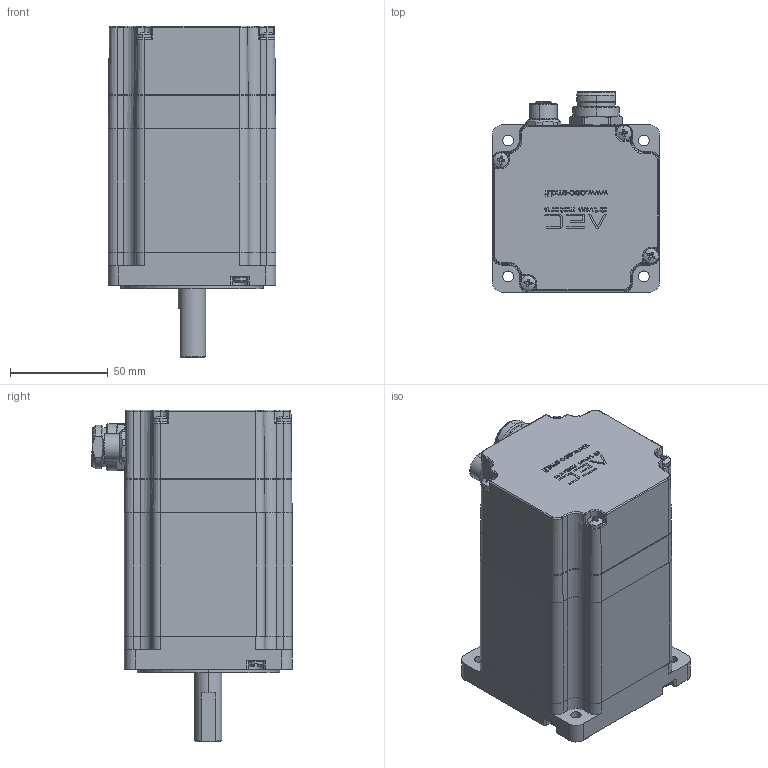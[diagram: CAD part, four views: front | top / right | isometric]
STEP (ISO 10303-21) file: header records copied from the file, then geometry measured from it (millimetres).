
FILE_DESCRIPTION (( 'STEP AP214' ), '1' );
FILE_NAME ('M86SH96-TO0512P24C.STEP', '2025-05-24T08:48:05', ( '' ), ( '' ), 'SwSTEP 2.0', 'SolidWorks 2019', '' );
FILE_SCHEMA (( 'AUTOMOTIVE_DESIGN' ));
Length unit declared in the file: millimetre
Products named in the file (1): M86SH96-TO0512P24C
Bounding box: 85.9 x 102.59 x 169.75 mm (x, y, z)
Surface area: 179102.3 mm2 (no closed solid volume)
Topology: 0 solids, 34 shells, 1999 faces, 5086 edges, 3240 vertices
Faces by surface type: plane 795, cylinder 554, bspline 255, cone 219, torus 160, sphere 16
Entity records: 94973 total; most frequent: CARTESIAN_POINT 26982, ORIENTED_EDGE 10052, DIRECTION 8567, EDGE_CURVE 5030, AXIS2_PLACEMENT_3D 3276, VERTEX_POINT 3240, EDGE_LOOP 2286, UNCERTAINTY_MEASURE_WITH_UNIT 2032
